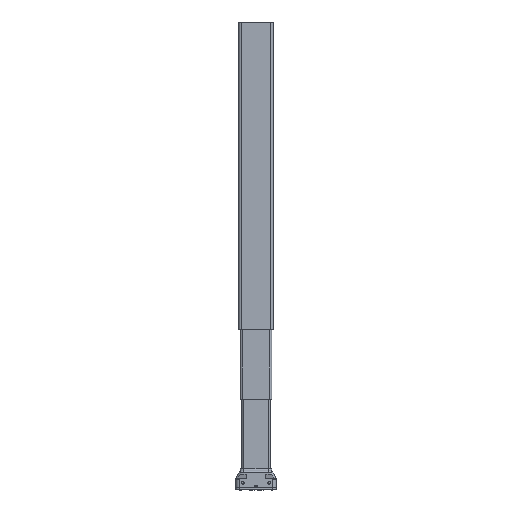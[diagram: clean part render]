
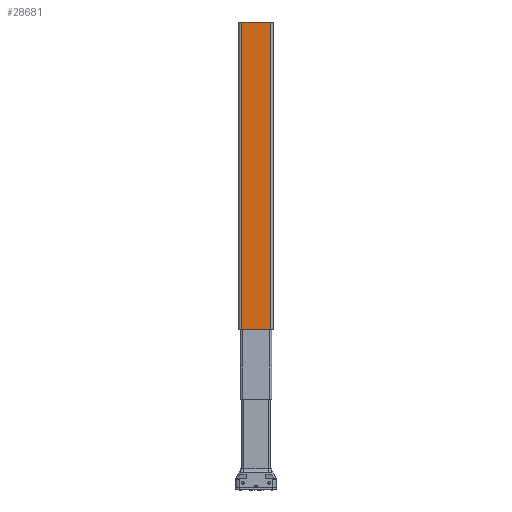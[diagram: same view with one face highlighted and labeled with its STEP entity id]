
A CAD part, top view. The second image highlights one B-rep face of the part: STEP entity #28681.
In plain terms, the highlighted planar face has unit normal (0, 0, 1).
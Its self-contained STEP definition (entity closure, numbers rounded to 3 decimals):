
#7344=DIRECTION('',(1.,0.,0.));
#7345=VECTOR('',#7344,70.);
#7346=CARTESIAN_POINT('',(-35.,331.,25.));
#7347=LINE('',#7346,#7345);
#9568=DIRECTION('',(0.,-1.,0.));
#9569=VECTOR('',#9568,723.);
#9570=CARTESIAN_POINT('',(35.,1054.,25.));
#9571=LINE('',#9570,#9569);
#9572=DIRECTION('',(0.,-1.,0.));
#9573=VECTOR('',#9572,723.);
#9574=CARTESIAN_POINT('',(-35.,1054.,25.));
#9575=LINE('',#9574,#9573);
#9576=DIRECTION('',(1.,0.,0.));
#9577=VECTOR('',#9576,70.);
#9578=CARTESIAN_POINT('',(-35.,1054.,25.));
#9579=LINE('',#9578,#9577);
#13924=CARTESIAN_POINT('',(-35.,1054.,25.));
#13925=VERTEX_POINT('',#13924);
#13926=CARTESIAN_POINT('',(35.,1054.,25.));
#13928=VERTEX_POINT('',#13926);
#14380=CARTESIAN_POINT('',(-35.,331.,25.));
#14381=VERTEX_POINT('',#14380);
#14382=CARTESIAN_POINT('',(35.,331.,25.));
#14384=VERTEX_POINT('',#14382);
#28669=CARTESIAN_POINT('',(-35.,1054.,25.));
#28670=DIRECTION('',(0.,0.,1.));
#28671=DIRECTION('',(1.,0.,0.));
#28672=AXIS2_PLACEMENT_3D('',#28669,#28670,#28671);
#28673=PLANE('',#28672);
#28674=ORIENTED_EDGE('',*,*,#25365,.F.);
#28676=ORIENTED_EDGE('',*,*,#28675,.F.);
#28677=ORIENTED_EDGE('',*,*,#25502,.T.);
#28678=ORIENTED_EDGE('',*,*,#28664,.T.);
#28679=EDGE_LOOP('',(#28674,#28676,#28677,#28678));
#28680=FACE_OUTER_BOUND('',#28679,.F.);
#25365=EDGE_CURVE('',#14381,#14384,#7347,.T.);
#25502=EDGE_CURVE('',#13925,#13928,#9579,.T.);
#28664=EDGE_CURVE('',#13928,#14384,#9571,.T.);
#28675=EDGE_CURVE('',#13925,#14381,#9575,.T.);
#28681=ADVANCED_FACE('',(#28680),#28673,.T.);
